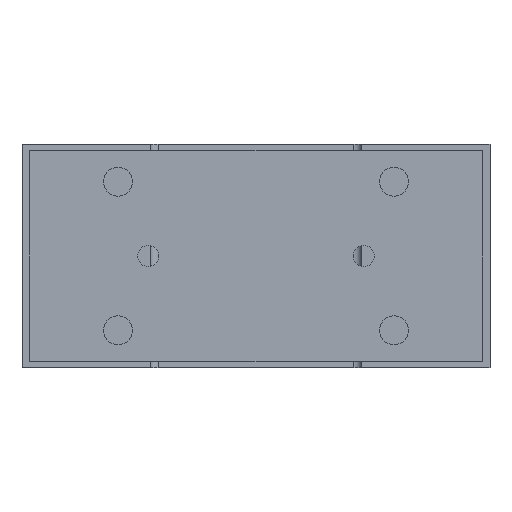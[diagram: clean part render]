
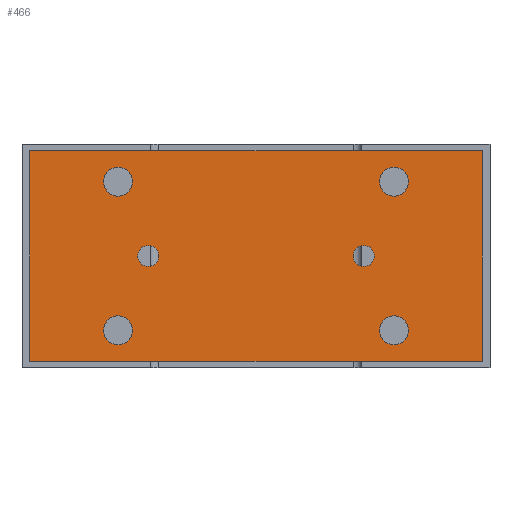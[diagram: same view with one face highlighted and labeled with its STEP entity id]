
A CAD part, left-side view. The second image highlights one B-rep face of the part: STEP entity #466.
In plain terms, the highlighted planar face has unit normal (-1, 0, 0).
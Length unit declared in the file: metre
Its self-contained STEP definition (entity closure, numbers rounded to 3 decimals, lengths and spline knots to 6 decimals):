
#466 = ADVANCED_FACE( '', ( #1093, #1094, #1095, #1096, #1097, #1098, #1099 ), #1100, .T. );
#1093 = FACE_BOUND( '', #1893, .T. );
#1094 = FACE_BOUND( '', #1894, .T. );
#1095 = FACE_BOUND( '', #1895, .T. );
#1096 = FACE_BOUND( '', #1896, .T. );
#1097 = FACE_BOUND( '', #1897, .T. );
#1098 = FACE_BOUND( '', #1898, .T. );
#1099 = FACE_OUTER_BOUND( '', #1899, .T. );
#1100 = PLANE( '', #1900 );
#1893 = EDGE_LOOP( '', ( #3083 ) );
#1894 = EDGE_LOOP( '', ( #3084 ) );
#1895 = EDGE_LOOP( '', ( #3085 ) );
#1896 = EDGE_LOOP( '', ( #3086 ) );
#1897 = EDGE_LOOP( '', ( #3087 ) );
#1898 = EDGE_LOOP( '', ( #3088 ) );
#1899 = EDGE_LOOP( '', ( #3089, #3090, #3091, #3092 ) );
#1900 = AXIS2_PLACEMENT_3D( '', #3093, #3094, #3095 );
#3083 = ORIENTED_EDGE( '', *, *, #4187, .F. );
#3084 = ORIENTED_EDGE( '', *, *, #3812, .F. );
#3085 = ORIENTED_EDGE( '', *, *, #4123, .F. );
#3086 = ORIENTED_EDGE( '', *, *, #4188, .F. );
#3087 = ORIENTED_EDGE( '', *, *, #4146, .F. );
#3088 = ORIENTED_EDGE( '', *, *, #3966, .T. );
#3089 = ORIENTED_EDGE( '', *, *, #4189, .T. );
#3090 = ORIENTED_EDGE( '', *, *, #4190, .T. );
#3091 = ORIENTED_EDGE( '', *, *, #4191, .T. );
#3092 = ORIENTED_EDGE( '', *, *, #3883, .T. );
#3093 = CARTESIAN_POINT( '', ( -0.118, -0.086, -0.0025 ) );
#3094 = DIRECTION( '', ( -1., 0., 0. ) );
#3095 = DIRECTION( '', ( 0., 0., 1. ) );
#3812 = EDGE_CURVE( '', #4379, #4379, #4380, .T. );
#3883 = EDGE_CURVE( '', #4499, #4497, #4500, .T. );
#3966 = EDGE_CURVE( '', #4632, #4632, #4633, .T. );
#4123 = EDGE_CURVE( '', #4878, #4878, #4879, .T. );
#4146 = EDGE_CURVE( '', #4915, #4915, #4916, .T. );
#4187 = EDGE_CURVE( '', #4973, #4973, #4974, .T. );
#4188 = EDGE_CURVE( '', #4975, #4975, #4976, .T. );
#4189 = EDGE_CURVE( '', #4497, #4977, #4978, .T. );
#4190 = EDGE_CURVE( '', #4977, #4979, #4980, .T. );
#4191 = EDGE_CURVE( '', #4979, #4499, #4981, .T. );
#4379 = VERTEX_POINT( '', #5214 );
#4380 = CIRCLE( '', #5215, 0.0055 );
#4497 = VERTEX_POINT( '', #5392 );
#4499 = VERTEX_POINT( '', #5395 );
#4500 = LINE( '', #5396, #5397 );
#4632 = VERTEX_POINT( '', #5620 );
#4633 = CIRCLE( '', #5621, 0.004 );
#4878 = VERTEX_POINT( '', #6008 );
#4879 = CIRCLE( '', #6009, 0.0055 );
#4915 = VERTEX_POINT( '', #6078 );
#4916 = CIRCLE( '', #6079, 0.004 );
#4973 = VERTEX_POINT( '', #6181 );
#4974 = CIRCLE( '', #6182, 0.0055 );
#4975 = VERTEX_POINT( '', #6183 );
#4976 = CIRCLE( '', #6184, 0.0055 );
#4977 = VERTEX_POINT( '', #6185 );
#4978 = LINE( '', #6186, #6187 );
#4979 = VERTEX_POINT( '', #6188 );
#4980 = LINE( '', #6189, #6190 );
#4981 = LINE( '', #6191, #6192 );
#5214 = CARTESIAN_POINT( '', ( -0.118, 0.0525, -0.06525 ) );
#5215 = AXIS2_PLACEMENT_3D( '', #6501, #6502, #6503 );
#5392 = CARTESIAN_POINT( '', ( -0.118, -0.086, -0.0825 ) );
#5395 = CARTESIAN_POINT( '', ( -0.118, 0.086, -0.0825 ) );
#5396 = CARTESIAN_POINT( '', ( -0.118, 0.086, -0.0825 ) );
#5397 = VECTOR( '', #6607, 1. );
#5620 = CARTESIAN_POINT( '', ( -0.118, 0.037, -0.0425 ) );
#5621 = AXIS2_PLACEMENT_3D( '', #6720, #6721, #6722 );
#6008 = CARTESIAN_POINT( '', ( -0.118, -0.0525, -0.00875 ) );
#6009 = AXIS2_PLACEMENT_3D( '', #6892, #6893, #6894 );
#6078 = CARTESIAN_POINT( '', ( -0.118, -0.037, -0.0425 ) );
#6079 = AXIS2_PLACEMENT_3D( '', #6931, #6932, #6933 );
#6181 = CARTESIAN_POINT( '', ( -0.118, -0.0525, -0.06525 ) );
#6182 = AXIS2_PLACEMENT_3D( '', #6976, #6977, #6978 );
#6183 = CARTESIAN_POINT( '', ( -0.118, 0.0525, -0.00875 ) );
#6184 = AXIS2_PLACEMENT_3D( '', #6979, #6980, #6981 );
#6185 = CARTESIAN_POINT( '', ( -0.118, -0.086, -0.0025 ) );
#6186 = CARTESIAN_POINT( '', ( -0.118, -0.086, -0.0825 ) );
#6187 = VECTOR( '', #6982, 1. );
#6188 = CARTESIAN_POINT( '', ( -0.118, 0.086, -0.0025 ) );
#6189 = CARTESIAN_POINT( '', ( -0.118, -0.086, -0.0025 ) );
#6190 = VECTOR( '', #6983, 1. );
#6191 = CARTESIAN_POINT( '', ( -0.118, 0.086, -0.0025 ) );
#6192 = VECTOR( '', #6984, 1. );
#6501 = CARTESIAN_POINT( '', ( -0.118, 0.0525, -0.07075 ) );
#6502 = DIRECTION( '', ( -1., 0., 0. ) );
#6503 = DIRECTION( '', ( 0., 0., 1. ) );
#6607 = DIRECTION( '', ( 0., -1., 0. ) );
#6720 = CARTESIAN_POINT( '', ( -0.118, 0.041, -0.0425 ) );
#6721 = DIRECTION( '', ( 1., 0., 0. ) );
#6722 = DIRECTION( '', ( 0., -1., 0. ) );
#6892 = CARTESIAN_POINT( '', ( -0.118, -0.0525, -0.01425 ) );
#6893 = DIRECTION( '', ( -1., 0., 0. ) );
#6894 = DIRECTION( '', ( 0., 0., 1. ) );
#6931 = CARTESIAN_POINT( '', ( -0.118, -0.041, -0.0425 ) );
#6932 = DIRECTION( '', ( -1., 0., 0. ) );
#6933 = DIRECTION( '', ( 0., 1., 0. ) );
#6976 = CARTESIAN_POINT( '', ( -0.118, -0.0525, -0.07075 ) );
#6977 = DIRECTION( '', ( -1., 0., 0. ) );
#6978 = DIRECTION( '', ( 0., 0., 1. ) );
#6979 = CARTESIAN_POINT( '', ( -0.118, 0.0525, -0.01425 ) );
#6980 = DIRECTION( '', ( -1., 0., 0. ) );
#6981 = DIRECTION( '', ( 0., 0., 1. ) );
#6982 = DIRECTION( '', ( 0., 0., 1. ) );
#6983 = DIRECTION( '', ( 0., 1., 0. ) );
#6984 = DIRECTION( '', ( 0., 0., -1. ) );
